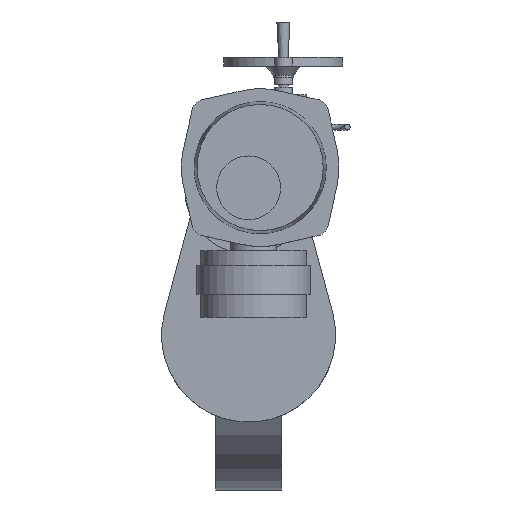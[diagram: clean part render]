
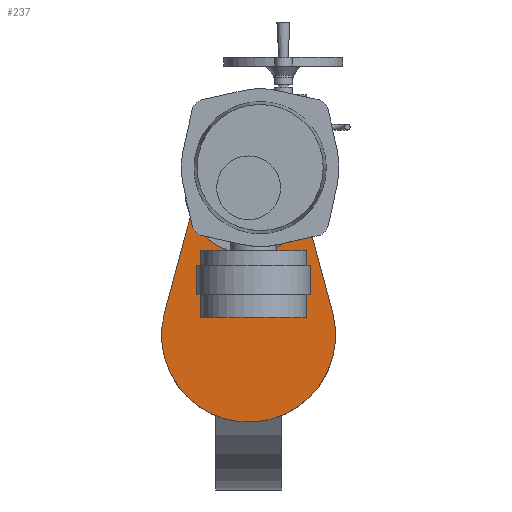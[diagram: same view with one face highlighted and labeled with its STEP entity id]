
A CAD part, top view. The second image highlights one B-rep face of the part: STEP entity #237.
In plain terms, the highlighted planar face has unit normal (0, 0, 1).
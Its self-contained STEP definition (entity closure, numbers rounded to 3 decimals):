
#237=ADVANCED_FACE('',(#8108),#8110,.F.);
#8108=FACE_BOUND('',#8109,.T.);
#8109=EDGE_LOOP('',(#14336,#14337,#14338,#14339,#14340));
#8110=PLANE('',#8111);
#8111=AXIS2_PLACEMENT_3D('',#8112,#8113,#8114);
#8112=CARTESIAN_POINT('',(20.,288.,525.));
#8113=DIRECTION('',(0.,0.,-1.));
#8114=DIRECTION('',(0.,1.,0.));
#14336=ORIENTED_EDGE('',*,*,#19066,.T.);
#14337=ORIENTED_EDGE('',*,*,#19067,.T.);
#14338=ORIENTED_EDGE('',*,*,#19068,.F.);
#14339=ORIENTED_EDGE('',*,*,#19040,.F.);
#14340=ORIENTED_EDGE('',*,*,#19069,.F.);
#19040=EDGE_CURVE('',#21442,#21443,#21444,.T.);
#19066=EDGE_CURVE('',#21491,#21492,#21493,.F.);
#19067=EDGE_CURVE('',#21492,#21494,#21495,.F.);
#19068=EDGE_CURVE('',#21443,#21494,#21496,.T.);
#19069=EDGE_CURVE('',#21491,#21442,#21497,.T.);
#21442=VERTEX_POINT('',#25515);
#21443=VERTEX_POINT('',#25516);
#21444=CIRCLE('',#25517,150.);
#21491=VERTEX_POINT('',#25640);
#21492=VERTEX_POINT('',#25641);
#21493=CIRCLE('',#25642,85.);
#21494=VERTEX_POINT('',#25646);
#21495=CIRCLE('',#25647,85.);
#21496=LINE('',#25651,#25652);
#21497=LINE('',#25654,#25655);
#25515=CARTESIAN_POINT('',(144.841,39.,525.));
#25516=CARTESIAN_POINT('',(-144.841,39.,525.));
#25517=AXIS2_PLACEMENT_3D('',#25518,#25519,#25520);
#25518=CARTESIAN_POINT('',(0.,0.,525.));
#25519=DIRECTION('',(0.,0.,-1.));
#25520=DIRECTION('',(0.966,0.26,0.));
#25640=CARTESIAN_POINT('',(82.077,272.1,525.));
#25641=CARTESIAN_POINT('',(0.,165.,525.));
#25642=AXIS2_PLACEMENT_3D('',#25643,#25644,#25645);
#25643=CARTESIAN_POINT('',(0.,250.,525.));
#25644=DIRECTION('',(0.,0.,1.));
#25645=DIRECTION('',(0.,-1.,0.));
#25646=CARTESIAN_POINT('',(-82.077,272.1,525.));
#25647=AXIS2_PLACEMENT_3D('',#25648,#25649,#25650);
#25648=CARTESIAN_POINT('',(0.,250.,525.));
#25649=DIRECTION('',(0.,0.,1.));
#25650=DIRECTION('',(-0.966,0.26,0.));
#25651=CARTESIAN_POINT('',(-144.841,39.,525.));
#25652=VECTOR('',#25653,1.);
#25653=DIRECTION('',(0.26,0.966,0.));
#25654=CARTESIAN_POINT('',(82.077,272.1,525.));
#25655=VECTOR('',#25656,1.);
#25656=DIRECTION('',(0.26,-0.966,0.));
